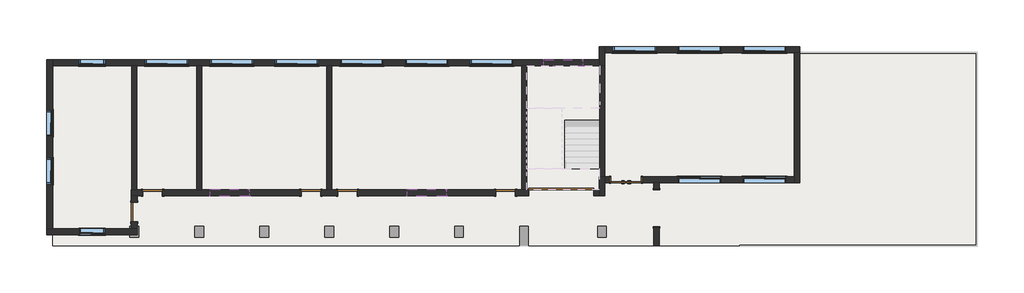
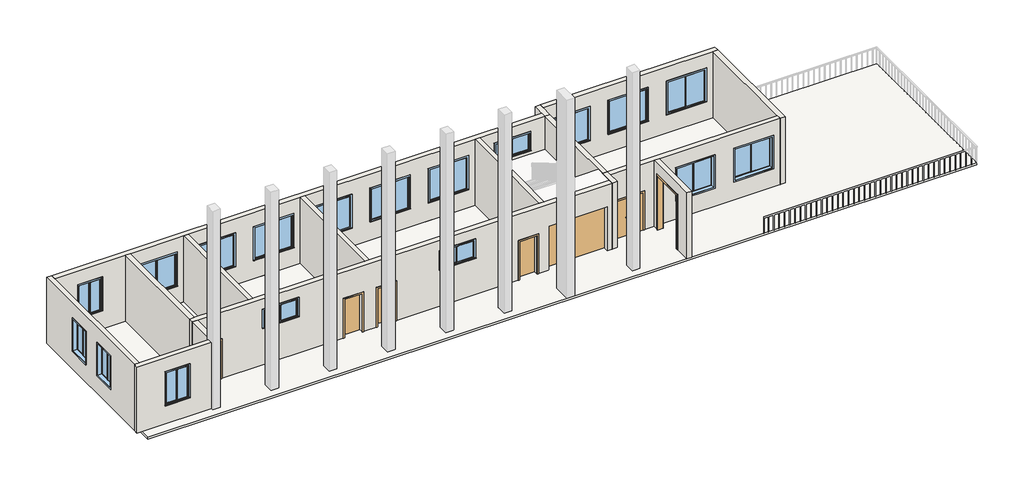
# One storey, part 1 of 3: 18 windows, 16 walls, 8 doors, 1 slab.
"""IFC4 building model written with IfcOpenShell, lengths in millimetres."""

from ifc_helpers import new_model, si_unit, frame, origin, origin_with_axes, place, context, project, spatial, polyline, outline, extrude, faceted_brep, transform, mapped, element, save
from components import door_1800_x_3000mm_c185189f, m1_f3cb3123, m1_ab81c9c2, m2_9ba113ef, m3_c4b16c2e, c1_f694383f, c2_0d9a7da2, c3_ebe1f937

model = new_model("IFC4")

# Units and contexts
model_context = context("Model", 3, world=origin())
ifc_project = project(units=[si_unit("LENGTHUNIT", "METRE", prefix="MILLI")], contexts=[model_context])

# Site, building, storey
site = spatial("IfcSite", under=ifc_project)
building = spatial("IfcBuilding", under=site)
storey = spatial("IfcBuildingStorey", under=building, Name="标高 1", Elevation=0.0)

# Doors
placement = place(None, origin())
door_1800_x_3000mm_shape = door_1800_x_3000mm_c185189f(model_context)
element("IfcDoor", 1, ObjectType="门洞 : 1800 x 3000mm", at=placement, inside=storey, context=model_context, shape_type="MappedRepresentation", body=[
    mapped(door_1800_x_3000mm_shape, transform((19529.6165825, -5070.9601487, 0.0), x_axis=(0.0, -1.0, 0.0), y_axis=(1.0, 0.0, 0.0), z_axis=(0.0, 0.0, 1.0))),
])
m1_shape = m1_f3cb3123(model_context)
element("IfcDoor", 2, ObjectType="单扇 - 与墙齐 : M1", at=placement, inside=storey, context=model_context, shape_type="MappedRepresentation", body=[
    mapped(m1_shape, transform((-4580.3834175, -5250.9601487, 0.0), x_axis=(0.0, -1.0, 0.0), y_axis=(1.0, 0.0, 0.0), z_axis=(0.0, 0.0, 1.0))),
])
element("IfcDoor", 3, ObjectType="单扇 - 与墙齐 : M1", at=placement, inside=storey, context=model_context, shape_type="MappedRepresentation", body=[
    mapped(m1_shape, transform((-3730.3834175, -4350.9601487, 0.0), x_axis=(-1.0, 0.0, 0.0), y_axis=(0.0, -1.0, 0.0), z_axis=(0.0, 0.0, 1.0))),
])
element("IfcDoor", 4, ObjectType="单扇 - 与墙齐 : M1", at=placement, inside=storey, context=model_context, shape_type="MappedRepresentation", body=[
    mapped(m1_shape, transform((5269.6165825, -4350.9601487, 0.0), x_axis=(-1.0, 0.0, 0.0), y_axis=(0.0, -1.0, 0.0), z_axis=(0.0, 0.0, 1.0))),
])
m1_2_shape = m1_ab81c9c2(model_context)
element("IfcDoor", 5, ObjectType="单扇 - 与墙齐 : M1", at=placement, inside=storey, context=model_context, shape_type="MappedRepresentation", body=[
    mapped(m1_2_shape, transform((3569.6165825, -4350.9601487, 0.0), x_axis=(1.0, 0.0, 0.0), y_axis=(0.0, 1.0, 0.0), z_axis=(0.0, 0.0, 1.0))),
])
element("IfcDoor", 6, ObjectType="单扇 - 与墙齐 : M1", at=placement, inside=storey, context=model_context, shape_type="MappedRepresentation", body=[
    mapped(m1_2_shape, transform((12569.6165825, -4350.9601487, 0.0), x_axis=(1.0, 0.0, 0.0), y_axis=(0.0, 1.0, 0.0), z_axis=(0.0, 0.0, 1.0))),
])
m2_shape = m2_9ba113ef(model_context)
element("IfcDoor", 7, ObjectType="双面嵌板木门 1 : M2", at=placement, inside=storey, context=model_context, shape_type="MappedRepresentation", body=[
    mapped(m2_shape, transform((18129.6165825, -3750.9601487, 0.0), x_axis=(1.0, 0.0, 0.0), y_axis=(0.0, 1.0, 0.0), z_axis=(0.0, 0.0, 1.0))),
])
m3_shape = m3_c4b16c2e(model_context)
element("IfcDoor", 8, ObjectType="滑升门 : M3", at=placement, inside=storey, context=model_context, shape_type="MappedRepresentation", body=[
    mapped(m3_shape, transform((15139.6165825, -4350.9601487, 0.0), x_axis=(-1.0, 0.0, 0.0), y_axis=(0.0, -1.0, 0.0), z_axis=(0.0, 0.0, 1.0))),
])

# Slab
element("IfcSlab", 9, ObjectType="常规 - 100mm", at=placement, inside=storey, context=model_context, shape_type="SweptSolid", body=[
    extrude(outline(polyline([(17149.6165825, 1519.0398513), (17149.6165825, 2119.0398513), (34324.6165825, 2119.0398513), (34324.6165825, -6800.9601487), (-8350.3834175, -6800.9601487), (-8350.3834175, 1519.0398513), (17149.6165825, 1519.0398513)])), frame((0.0, 0.0, -100.0), z_axis=(0.0, 0.0, 1.0), x_axis=(1.0, 0.0, 0.0)), (0.0, 0.0, 1.0), 100.0),
])

# Walls
element("IfcWall", 10, ObjectType="外墙", at=placement, inside=storey, context=model_context, shape_type="Brep", body=[
    faceted_brep([(-4450.3834175, -6020.9601487, 0.0), (-4710.3834175, -6020.9601487, 0.0), (-8350.3834175, -6020.9601487, 0.0), (-8610.3834175, -6020.9601487, 0.0), (-8610.3834175, -6020.9601487, 3600.0), (-8350.3834175, -6020.9601487, 3600.0), (-4710.3834175, -6020.9601487, 3600.0), (-4450.3834175, -6020.9601487, 3600.0), (-7130.3834175, -6020.9601487, 2800.0), (-7130.3834175, -6020.9601487, 1000.0), (-5930.3834175, -6020.9601487, 1000.0), (-5930.3834175, -6020.9601487, 2800.0), (-4450.3834175, -6280.9601487, 0.0), (-4450.3834175, -6280.9601487, 3600.0), (-8610.3834175, -6280.9601487, 3600.0), (-8610.3834175, -6280.9601487, 0.0), (-7130.3834175, -6280.9601487, 2800.0), (-5930.3834175, -6280.9601487, 2800.0), (-5930.3834175, -6280.9601487, 1000.0), (-7130.3834175, -6280.9601487, 1000.0)], [[[0, 1, 2, 3, 4, 5, 6, 7], [8, 9, 10, 11]], [[12, 13, 14, 15], [16, 17, 18, 19]], [[3, 2, 1, 0, 12, 15]], [[7, 6, 5, 4, 14, 13]], [[4, 3, 15, 14]], [[0, 7, 13, 12]], [[9, 8, 16, 19]], [[10, 9, 19, 18]], [[11, 10, 18, 17]], [[8, 11, 17, 16]]]),
])
element("IfcWall", 11, ObjectType="外墙", at=placement, inside=storey, context=model_context, shape_type="Brep", body=[
    faceted_brep([(-8350.3834175, -6020.9601487, 0.0), (-8350.3834175, 1519.0398513, 0.0), (-8350.3834175, 1779.0398513, 0.0), (-8350.3834175, 1779.0398513, 3600.0), (-8350.3834175, 1519.0398513, 3600.0), (-8350.3834175, -6020.9601487, 3600.0), (-8350.3834175, -1750.9601487, 2800.0), (-8350.3834175, -550.9601487, 2800.0), (-8350.3834175, -550.9601487, 1000.0), (-8350.3834175, -1750.9601487, 1000.0), (-8350.3834175, -3950.9601487, 2800.0), (-8350.3834175, -2750.9601487, 2800.0), (-8350.3834175, -2750.9601487, 1000.0), (-8350.3834175, -3950.9601487, 1000.0), (-8610.3834175, -6020.9601487, 0.0), (-8610.3834175, -6020.9601487, 3600.0), (-8610.3834175, 1779.0398513, 3600.0), (-8610.3834175, 1779.0398513, 0.0), (-8610.3834175, -1750.9601487, 2800.0), (-8610.3834175, -1750.9601487, 1000.0), (-8610.3834175, -550.9601487, 1000.0), (-8610.3834175, -550.9601487, 2800.0), (-8610.3834175, -3950.9601487, 2800.0), (-8610.3834175, -3950.9601487, 1000.0), (-8610.3834175, -2750.9601487, 1000.0), (-8610.3834175, -2750.9601487, 2800.0)], [[[0, 1, 2, 3, 4, 5], [6, 7, 8, 9], [10, 11, 12, 13]], [[14, 15, 16, 17], [18, 19, 20, 21], [22, 23, 24, 25]], [[2, 1, 0, 14, 17]], [[5, 4, 3, 16, 15]], [[0, 5, 15, 14]], [[3, 2, 17, 16]], [[19, 18, 6, 9]], [[20, 19, 9, 8]], [[21, 20, 8, 7]], [[18, 21, 7, 6]], [[23, 22, 10, 13]], [[24, 23, 13, 12]], [[25, 24, 12, 11]], [[22, 25, 11, 10]]]),
])
element("IfcWall", 12, ObjectType="外墙", at=placement, inside=storey, context=model_context, shape_type="Brep", body=[
    faceted_brep([(-8350.3834175, 1519.0398513, 0.0), (-4700.3834175, 1519.0398513, 0.0), (-4460.3834175, 1519.0398513, 0.0), (-1700.3834175, 1519.0398513, 0.0), (-1460.3834175, 1519.0398513, 0.0), (4299.6165825, 1519.0398513, 0.0), (4539.6165825, 1519.0398513, 0.0), (13299.6165825, 1519.0398513, 0.0), (13539.6165825, 1519.0398513, 0.0), (16889.6165825, 1519.0398513, 0.0), (16889.6165825, 1519.0398513, 3600.0), (13539.6165825, 1519.0398513, 3600.0), (13299.6165825, 1519.0398513, 3600.0), (4539.6165825, 1519.0398513, 3600.0), (4299.6165825, 1519.0398513, 3600.0), (-1460.3834175, 1519.0398513, 3600.0), (-1700.3834175, 1519.0398513, 3600.0), (-4460.3834175, 1519.0398513, 3600.0), (-4700.3834175, 1519.0398513, 3600.0), (-8350.3834175, 1519.0398513, 3600.0), (-7130.3834175, 1519.0398513, 2800.0), (-5930.3834175, 1519.0398513, 2800.0), (-5930.3834175, 1519.0398513, 1000.0), (-7130.3834175, 1519.0398513, 1000.0), (-4080.3834175, 1519.0398513, 2800.0), (-2080.3834175, 1519.0398513, 2800.0), (-2080.3834175, 1519.0398513, 1000.0), (-4080.3834175, 1519.0398513, 1000.0), (-1080.3834175, 1519.0398513, 2800.0), (919.6165825, 1519.0398513, 2800.0), (919.6165825, 1519.0398513, 1000.0), (-1080.3834175, 1519.0398513, 1000.0), (1919.6165825, 1519.0398513, 2800.0), (3919.6165825, 1519.0398513, 2800.0), (3919.6165825, 1519.0398513, 1000.0), (1919.6165825, 1519.0398513, 1000.0), (4919.6165825, 1519.0398513, 2800.0), (6919.6165825, 1519.0398513, 2800.0), (6919.6165825, 1519.0398513, 1000.0), (4919.6165825, 1519.0398513, 1000.0), (7919.6165825, 1519.0398513, 2800.0), (9919.6165825, 1519.0398513, 2800.0), (9919.6165825, 1519.0398513, 1000.0), (7919.6165825, 1519.0398513, 1000.0), (10919.6165825, 1519.0398513, 2800.0), (12919.6165825, 1519.0398513, 2800.0), (12919.6165825, 1519.0398513, 1000.0), (10919.6165825, 1519.0398513, 1000.0), (14319.6165825, 1519.0398513, 3000.0), (16119.6165825, 1519.0398513, 3000.0), (16119.6165825, 1519.0398513, 2000.0), (14319.6165825, 1519.0398513, 2000.0), (-8350.3834175, 1779.0398513, 0.0), (-8350.3834175, 1779.0398513, 3600.0), (16889.6165825, 1779.0398513, 3600.0), (16889.6165825, 1779.0398513, 0.0), (-7130.3834175, 1779.0398513, 2800.0), (-7130.3834175, 1779.0398513, 1000.0), (-5930.3834175, 1779.0398513, 1000.0), (-5930.3834175, 1779.0398513, 2800.0), (-4080.3834175, 1779.0398513, 2800.0), (-4080.3834175, 1779.0398513, 1000.0), (-2080.3834175, 1779.0398513, 1000.0), (-2080.3834175, 1779.0398513, 2800.0), (-1080.3834175, 1779.0398513, 2800.0), (-1080.3834175, 1779.0398513, 1000.0), (919.6165825, 1779.0398513, 1000.0), (919.6165825, 1779.0398513, 2800.0), (1919.6165825, 1779.0398513, 2800.0), (1919.6165825, 1779.0398513, 1000.0), (3919.6165825, 1779.0398513, 1000.0), (3919.6165825, 1779.0398513, 2800.0), (4919.6165825, 1779.0398513, 2800.0), (4919.6165825, 1779.0398513, 1000.0), (6919.6165825, 1779.0398513, 1000.0), (6919.6165825, 1779.0398513, 2800.0), (7919.6165825, 1779.0398513, 2800.0), (7919.6165825, 1779.0398513, 1000.0), (9919.6165825, 1779.0398513, 1000.0), (9919.6165825, 1779.0398513, 2800.0), (10919.6165825, 1779.0398513, 2800.0), (10919.6165825, 1779.0398513, 1000.0), (12919.6165825, 1779.0398513, 1000.0), (12919.6165825, 1779.0398513, 2800.0), (14319.6165825, 1779.0398513, 3000.0), (14319.6165825, 1779.0398513, 2000.0), (16119.6165825, 1779.0398513, 2000.0), (16119.6165825, 1779.0398513, 3000.0)], [[[0, 1, 2, 3, 4, 5, 6, 7, 8, 9, 10, 11, 12, 13, 14, 15, 16, 17, 18, 19], [20, 21, 22, 23], [24, 25, 26, 27], [28, 29, 30, 31], [32, 33, 34, 35], [36, 37, 38, 39], [40, 41, 42, 43], [44, 45, 46, 47], [48, 49, 50, 51]], [[52, 53, 54, 55], [56, 57, 58, 59], [60, 61, 62, 63], [64, 65, 66, 67], [68, 69, 70, 71], [72, 73, 74, 75], [76, 77, 78, 79], [80, 81, 82, 83], [84, 85, 86, 87]], [[9, 8, 7, 6, 5, 4, 3, 2, 1, 0, 52, 55]], [[19, 18, 17, 16, 15, 14, 13, 12, 11, 10, 54, 53]], [[0, 19, 53, 52]], [[57, 56, 20, 23]], [[58, 57, 23, 22]], [[59, 58, 22, 21]], [[56, 59, 21, 20]], [[61, 60, 24, 27]], [[62, 61, 27, 26]], [[63, 62, 26, 25]], [[60, 63, 25, 24]], [[65, 64, 28, 31]], [[66, 65, 31, 30]], [[67, 66, 30, 29]], [[64, 67, 29, 28]], [[69, 68, 32, 35]], [[70, 69, 35, 34]], [[71, 70, 34, 33]], [[68, 71, 33, 32]], [[73, 72, 36, 39]], [[74, 73, 39, 38]], [[75, 74, 38, 37]], [[72, 75, 37, 36]], [[77, 76, 40, 43]], [[78, 77, 43, 42]], [[79, 78, 42, 41]], [[76, 79, 41, 40]], [[81, 80, 44, 47]], [[82, 81, 47, 46]], [[83, 82, 46, 45]], [[80, 83, 45, 44]], [[85, 84, 48, 51]], [[86, 85, 51, 50]], [[87, 86, 50, 49]], [[84, 87, 49, 48]], [[10, 9, 55, 54]]]),
])
element("IfcWall", 13, ObjectType="外墙", at=placement, inside=storey, context=model_context, shape_type="Brep", body=[
    faceted_brep([(17149.6165825, 1519.0398513, 0.0), (17149.6165825, 2119.0398513, 0.0), (17149.6165825, 2379.0398513, 0.0), (17149.6165825, 2379.0398513, 3600.0), (17149.6165825, 2119.0398513, 3600.0), (17149.6165825, 1519.0398513, 3600.0), (16889.6165825, 1519.0398513, 0.0), (16889.6165825, 1519.0398513, 3600.0), (16889.6165825, 1779.0398513, 3600.0), (16889.6165825, 2379.0398513, 3600.0), (16889.6165825, 2379.0398513, 0.0), (16889.6165825, 1779.0398513, 0.0), (17139.6165825, 1519.0398513, 0.0), (16899.6165825, 1519.0398513, 0.0), (16899.6165825, 1519.0398513, 3600.0), (17139.6165825, 1519.0398513, 3600.0)], [[[0, 1, 2, 3, 4, 5]], [[6, 7, 8, 9, 10, 11]], [[2, 1, 0, 12, 13, 6, 11, 10]], [[5, 4, 3, 9, 8, 7, 14, 15]], [[3, 2, 10, 9]], [[0, 5, 15, 14, 7, 6, 13, 12]]]),
])
element("IfcWall", 14, ObjectType="外墙", at=placement, inside=storey, context=model_context, shape_type="Brep", body=[
    faceted_brep([(17149.6165825, 2119.0398513, 0.0), (25889.6165825, 2119.0398513, 0.0), (26149.6165825, 2119.0398513, 0.0), (26149.6165825, 2119.0398513, 3600.0), (25889.6165825, 2119.0398513, 3600.0), (17149.6165825, 2119.0398513, 3600.0), (17519.6165825, 2119.0398513, 2800.0), (19519.6165825, 2119.0398513, 2800.0), (19519.6165825, 2119.0398513, 1000.0), (17519.6165825, 2119.0398513, 1000.0), (20519.6165825, 2119.0398513, 2800.0), (22519.6165825, 2119.0398513, 2800.0), (22519.6165825, 2119.0398513, 1000.0), (20519.6165825, 2119.0398513, 1000.0), (23519.6165825, 2119.0398513, 2800.0), (25519.6165825, 2119.0398513, 2800.0), (25519.6165825, 2119.0398513, 1000.0), (23519.6165825, 2119.0398513, 1000.0), (17149.6165825, 2379.0398513, 0.0), (17149.6165825, 2379.0398513, 3600.0), (26149.6165825, 2379.0398513, 3600.0), (26149.6165825, 2379.0398513, 0.0), (17519.6165825, 2379.0398513, 2800.0), (17519.6165825, 2379.0398513, 1000.0), (19519.6165825, 2379.0398513, 1000.0), (19519.6165825, 2379.0398513, 2800.0), (20519.6165825, 2379.0398513, 2800.0), (20519.6165825, 2379.0398513, 1000.0), (22519.6165825, 2379.0398513, 1000.0), (22519.6165825, 2379.0398513, 2800.0), (23519.6165825, 2379.0398513, 2800.0), (23519.6165825, 2379.0398513, 1000.0), (25519.6165825, 2379.0398513, 1000.0), (25519.6165825, 2379.0398513, 2800.0)], [[[0, 1, 2, 3, 4, 5], [6, 7, 8, 9], [10, 11, 12, 13], [14, 15, 16, 17]], [[18, 19, 20, 21], [22, 23, 24, 25], [26, 27, 28, 29], [30, 31, 32, 33]], [[2, 1, 0, 18, 21]], [[5, 4, 3, 20, 19]], [[0, 5, 19, 18]], [[3, 2, 21, 20]], [[23, 22, 6, 9]], [[24, 23, 9, 8]], [[25, 24, 8, 7]], [[22, 25, 7, 6]], [[27, 26, 10, 13]], [[28, 27, 13, 12]], [[29, 28, 12, 11]], [[26, 29, 11, 10]], [[31, 30, 14, 17]], [[32, 31, 17, 16]], [[33, 32, 16, 15]], [[30, 33, 15, 14]]]),
])
element("IfcWall", 15, ObjectType="外墙", at=placement, inside=storey, context=model_context, shape_type="Brep", body=[
    faceted_brep([(25889.6165825, 2119.0398513, 0.0), (25889.6165825, -3620.9601487, 0.0), (25889.6165825, -3880.9601487, 0.0), (25889.6165825, -3880.9601487, 3600.0), (25889.6165825, -3620.9601487, 3600.0), (25889.6165825, 2119.0398513, 3600.0), (26149.6165825, 2119.0398513, 0.0), (26149.6165825, 2119.0398513, 3600.0), (26149.6165825, -3880.9601487, 3600.0), (26149.6165825, -3880.9601487, 0.0)], [[[0, 1, 2, 3, 4, 5]], [[6, 7, 8, 9]], [[2, 1, 0, 6, 9]], [[5, 4, 3, 8, 7]], [[0, 5, 7, 6]], [[3, 2, 9, 8]]]),
])
element("IfcWall", 16, ObjectType="外墙", at=placement, inside=storey, context=model_context, shape_type="Brep", body=[
    faceted_brep([(17149.6165825, -3620.9601487, 3600.0), (25889.6165825, -3620.9601487, 3600.0), (25889.6165825, -3620.9601487, 0.0), (18879.6165825, -3620.9601487, 0.0), (18879.6165825, -3620.9601487, 2100.0), (17379.6165825, -3620.9601487, 2100.0), (17379.6165825, -3620.9601487, 0.0), (17149.6165825, -3620.9601487, 0.0), (22519.6165825, -3620.9601487, 2800.0), (20519.6165825, -3620.9601487, 2800.0), (20519.6165825, -3620.9601487, 1000.0), (22519.6165825, -3620.9601487, 1000.0), (25519.6165825, -3620.9601487, 2800.0), (23519.6165825, -3620.9601487, 2800.0), (23519.6165825, -3620.9601487, 1000.0), (25519.6165825, -3620.9601487, 1000.0), (25889.6165825, -3880.9601487, 3600.0), (19659.6165825, -3880.9601487, 3600.0), (19399.6165825, -3880.9601487, 3600.0), (17149.6165825, -3880.9601487, 3600.0), (17149.6165825, -3880.9601487, 0.0), (17379.6165825, -3880.9601487, 0.0), (17379.6165825, -3880.9601487, 2100.0), (18879.6165825, -3880.9601487, 2100.0), (18879.6165825, -3880.9601487, 0.0), (19399.6165825, -3880.9601487, 0.0), (19659.6165825, -3880.9601487, 0.0), (25889.6165825, -3880.9601487, 0.0), (22519.6165825, -3880.9601487, 2800.0), (22519.6165825, -3880.9601487, 1000.0), (20519.6165825, -3880.9601487, 1000.0), (20519.6165825, -3880.9601487, 2800.0), (25519.6165825, -3880.9601487, 2800.0), (25519.6165825, -3880.9601487, 1000.0), (23519.6165825, -3880.9601487, 1000.0), (23519.6165825, -3880.9601487, 2800.0)], [[[0, 1, 2, 3, 4, 5, 6, 7], [8, 9, 10, 11], [12, 13, 14, 15]], [[16, 17, 18, 19, 20, 21, 22, 23, 24, 25, 26, 27], [28, 29, 30, 31], [32, 33, 34, 35]], [[2, 27, 26, 25, 24, 3]], [[20, 7, 6, 21]], [[1, 0, 19, 18, 17, 16]], [[2, 1, 16, 27]], [[0, 7, 20, 19]], [[29, 28, 8, 11]], [[30, 29, 11, 10]], [[31, 30, 10, 9]], [[28, 31, 9, 8]], [[33, 32, 12, 15]], [[34, 33, 15, 14]], [[35, 34, 14, 13]], [[32, 35, 13, 12]], [[23, 4, 3, 24]], [[4, 23, 22, 5]], [[5, 22, 21, 6]]]),
])
element("IfcWall", 17, ObjectType="外墙", at=placement, inside=storey, context=model_context, shape_type="Brep", body=[
    faceted_brep([(16889.6165825, -3620.9601487, 0.0), (16889.6165825, -4220.9601487, 0.0), (16889.6165825, -4480.9601487, 0.0), (16889.6165825, -4480.9601487, 3600.0), (16889.6165825, -4220.9601487, 3600.0), (16889.6165825, -3620.9601487, 3600.0), (17149.6165825, -3620.9601487, 0.0), (17149.6165825, -3620.9601487, 3600.0), (17149.6165825, -3880.9601487, 3600.0), (17149.6165825, -4480.9601487, 3600.0), (17149.6165825, -4480.9601487, 0.0), (17149.6165825, -3880.9601487, 0.0), (16899.6165825, -3620.9601487, 0.0), (17139.6165825, -3620.9601487, 0.0), (17139.6165825, -3620.9601487, 3600.0), (16899.6165825, -3620.9601487, 3600.0)], [[[0, 1, 2, 3, 4, 5]], [[6, 7, 8, 9, 10, 11]], [[2, 1, 0, 12, 13, 6, 11, 10]], [[5, 4, 3, 9, 8, 7, 14, 15]], [[0, 5, 15, 14, 7, 6, 13, 12]], [[3, 2, 10, 9]]]),
])
element("IfcWall", 18, ObjectType="外墙", at=placement, inside=storey, context=model_context, shape_type="Brep", body=[
    faceted_brep([(13639.6165825, -4220.9601487, 0.0), (13539.6165825, -4220.9601487, 0.0), (13299.6165825, -4220.9601487, 0.0), (13019.6165825, -4220.9601487, 0.0), (13019.6165825, -4220.9601487, 2100.0), (12119.6165825, -4220.9601487, 2100.0), (12119.6165825, -4220.9601487, 0.0), (5719.6165825, -4220.9601487, 0.0), (5719.6165825, -4220.9601487, 2100.0), (4819.6165825, -4220.9601487, 2100.0), (4819.6165825, -4220.9601487, 0.0), (4539.6165825, -4220.9601487, 0.0), (4299.6165825, -4220.9601487, 0.0), (4019.6165825, -4220.9601487, 0.0), (4019.6165825, -4220.9601487, 2100.0), (3119.6165825, -4220.9601487, 2100.0), (3119.6165825, -4220.9601487, 0.0), (-1460.3834175, -4220.9601487, 0.0), (-1700.3834175, -4220.9601487, 0.0), (-3280.3834175, -4220.9601487, 0.0), (-3280.3834175, -4220.9601487, 2100.0), (-4180.3834175, -4220.9601487, 2100.0), (-4180.3834175, -4220.9601487, 0.0), (-4460.3834175, -4220.9601487, 0.0), (-4700.3834175, -4220.9601487, 0.0), (-4710.3834175, -4220.9601487, 0.0), (-4710.3834175, -4220.9601487, 3600.0), (-4700.3834175, -4220.9601487, 3600.0), (-4460.3834175, -4220.9601487, 3600.0), (-1700.3834175, -4220.9601487, 3600.0), (-1460.3834175, -4220.9601487, 3600.0), (4299.6165825, -4220.9601487, 3600.0), (4539.6165825, -4220.9601487, 3600.0), (13299.6165825, -4220.9601487, 3600.0), (13539.6165825, -4220.9601487, 3600.0), (16889.6165825, -4220.9601487, 3600.0), (16889.6165825, -4220.9601487, 0.0), (16639.6165825, -4220.9601487, 0.0), (16639.6165825, -4220.9601487, 2400.0), (13639.6165825, -4220.9601487, 2400.0), (8019.6165825, -4220.9601487, 3000.0), (8019.6165825, -4220.9601487, 2000.0), (9819.6165825, -4220.9601487, 2000.0), (9819.6165825, -4220.9601487, 3000.0), (-1080.3834175, -4220.9601487, 3000.0), (-1080.3834175, -4220.9601487, 2000.0), (719.6165825, -4220.9601487, 2000.0), (719.6165825, -4220.9601487, 3000.0), (13019.6165825, -4480.9601487, 2100.0), (13019.6165825, -4480.9601487, 0.0), (13639.6165825, -4480.9601487, 0.0), (13639.6165825, -4480.9601487, 2400.0), (16639.6165825, -4480.9601487, 2400.0), (16639.6165825, -4480.9601487, 0.0), (16889.6165825, -4480.9601487, 0.0), (16889.6165825, -4480.9601487, 3600.0), (-4450.3834175, -4480.9601487, 3600.0), (-4710.3834175, -4480.9601487, 3600.0), (-4710.3834175, -4480.9601487, 0.0), (-4450.3834175, -4480.9601487, 0.0), (-4180.3834175, -4480.9601487, 0.0), (-4180.3834175, -4480.9601487, 2100.0), (-3280.3834175, -4480.9601487, 2100.0), (-3280.3834175, -4480.9601487, 0.0), (3119.6165825, -4480.9601487, 0.0), (3119.6165825, -4480.9601487, 2100.0), (4019.6165825, -4480.9601487, 2100.0), (4019.6165825, -4480.9601487, 0.0), (4819.6165825, -4480.9601487, 0.0), (4819.6165825, -4480.9601487, 2100.0), (5719.6165825, -4480.9601487, 2100.0), (5719.6165825, -4480.9601487, 0.0), (12119.6165825, -4480.9601487, 0.0), (12119.6165825, -4480.9601487, 2100.0), (8019.6165825, -4480.9601487, 3000.0), (9819.6165825, -4480.9601487, 3000.0), (9819.6165825, -4480.9601487, 2000.0), (8019.6165825, -4480.9601487, 2000.0), (-1080.3834175, -4480.9601487, 3000.0), (719.6165825, -4480.9601487, 3000.0), (719.6165825, -4480.9601487, 2000.0), (-1080.3834175, -4480.9601487, 2000.0)], [[[0, 1, 2, 3, 4, 5, 6, 7, 8, 9, 10, 11, 12, 13, 14, 15, 16, 17, 18, 19, 20, 21, 22, 23, 24, 25, 26, 27, 28, 29, 30, 31, 32, 33, 34, 35, 36, 37, 38, 39], [40, 41, 42, 43], [44, 45, 46, 47]], [[48, 49, 50, 51, 52, 53, 54, 55, 56, 57, 58, 59, 60, 61, 62, 63, 64, 65, 66, 67, 68, 69, 70, 71, 72, 73], [74, 75, 76, 77], [78, 79, 80, 81]], [[36, 54, 53, 37]], [[25, 24, 23, 22, 60, 59, 58]], [[64, 63, 19, 18, 17, 16]], [[68, 67, 13, 12, 11, 10]], [[72, 71, 7, 6]], [[50, 49, 3, 2, 1, 0]], [[35, 34, 33, 32, 31, 30, 29, 28, 27, 26, 57, 56, 55]], [[36, 35, 55, 54]], [[26, 25, 58, 57]], [[41, 40, 74, 77]], [[42, 41, 77, 76]], [[43, 42, 76, 75]], [[40, 43, 75, 74]], [[45, 44, 78, 81]], [[46, 45, 81, 80]], [[47, 46, 80, 79]], [[44, 47, 79, 78]], [[39, 51, 50, 0]], [[51, 39, 38, 52]], [[52, 38, 37, 53]], [[61, 60, 22, 21]], [[62, 61, 21, 20]], [[63, 62, 20, 19]], [[69, 68, 10, 9]], [[70, 69, 9, 8]], [[71, 70, 8, 7]], [[14, 13, 67, 66]], [[15, 14, 66, 65]], [[16, 15, 65, 64]], [[4, 3, 49, 48]], [[5, 4, 48, 73]], [[6, 5, 73, 72]]]),
])
element("IfcWall", 19, ObjectType="外墙", at=placement, inside=storey, context=model_context, shape_type="SweptSolid", body=[
    extrude(outline(polyline([(-5700.9601487, 2100.0), (-5700.9601487, 0.0), (-6020.9601487, 0.0), (-6020.9601487, 3600.0), (-4480.9601487, 3600.0), (-4480.9601487, 0.0), (-4800.9601487, 0.0), (-4800.9601487, 2100.0), (-5700.9601487, 2100.0)])), frame((-4710.3834175, 0.0, 0.0), z_axis=(1.0, 0.0, 0.0), x_axis=(0.0, 1.0, 0.0)), (0.0, 0.0, 1.0), 260.0),
])
element("IfcWall", 20, ObjectType="外墙", at=placement, inside=storey, context=model_context, shape_type="SweptSolid", body=[
    extrude(outline(polyline([(-6800.9601487, 0.0), (-6800.9601487, 3600.0), (-3880.9601487, 3600.0), (-3880.9601487, 0.0), (-4170.9601487, 0.0), (-4170.9601487, 3000.0), (-5970.9601487, 3000.0), (-5970.9601487, 0.0), (-6800.9601487, 0.0)])), frame((19399.6165825, 0.0, 0.0), z_axis=(1.0, 0.0, 0.0), x_axis=(0.0, 1.0, 0.0)), (0.0, 0.0, 1.0), 260.0),
])
element("IfcWall", 21, ObjectType="内墙", at=placement, inside=storey, context=model_context, shape_type="SweptSolid", body=[
    extrude(outline(polyline([(-4700.3834175, -4220.9601487), (-4700.3834175, 1519.0398513), (-4460.3834175, 1519.0398513), (-4460.3834175, -4220.9601487), (-4700.3834175, -4220.9601487)])), origin_with_axes(), (0.0, 0.0, 1.0), 3600.0),
])
element("IfcWall", 22, ObjectType="内墙", at=placement, inside=storey, context=model_context, shape_type="SweptSolid", body=[
    extrude(outline(polyline([(-1700.3834175, -4220.9601487), (-1700.3834175, 1519.0398513), (-1460.3834175, 1519.0398513), (-1460.3834175, -4220.9601487), (-1700.3834175, -4220.9601487)])), origin_with_axes(), (0.0, 0.0, 1.0), 3600.0),
])
element("IfcWall", 23, ObjectType="内墙", at=placement, inside=storey, context=model_context, shape_type="SweptSolid", body=[
    extrude(outline(polyline([(4299.6165825, -4220.9601487), (4299.6165825, 1519.0398513), (4539.6165825, 1519.0398513), (4539.6165825, -4220.9601487), (4299.6165825, -4220.9601487)])), origin_with_axes(), (0.0, 0.0, 1.0), 3600.0),
])
element("IfcWall", 24, ObjectType="内墙", at=placement, inside=storey, context=model_context, shape_type="SweptSolid", body=[
    extrude(outline(polyline([(13299.6165825, -4220.9601487), (13299.6165825, 1519.0398513), (13539.6165825, 1519.0398513), (13539.6165825, -4220.9601487), (13299.6165825, -4220.9601487)])), origin_with_axes(), (0.0, 0.0, 1.0), 3600.0),
])
element("IfcWall", 25, ObjectType="内墙", at=placement, inside=storey, context=model_context, shape_type="SweptSolid", body=[
    extrude(outline(polyline([(16899.6165825, -3620.9601487), (16899.6165825, 1519.0398513), (17139.6165825, 1519.0398513), (17139.6165825, -3620.9601487), (16899.6165825, -3620.9601487)])), origin_with_axes(), (0.0, 0.0, 1.0), 3600.0),
])

# Windows
c1_shape = c1_f694383f(model_context)
element("IfcWindow", 26, ObjectType="推拉窗5 - 带贴面 : C1", at=placement, inside=storey, context=model_context, shape_type="MappedRepresentation", body=[
    mapped(c1_shape, transform((-6520.8584175, -6217.8335862, 95.0), x_axis=(-1.0, 0.0, 0.0), y_axis=(0.0, -1.0, 0.0), z_axis=(0.0, 0.0, 1.0))),
])
element("IfcWindow", 27, ObjectType="推拉窗5 - 带贴面 : C1", at=placement, inside=storey, context=model_context, shape_type="MappedRepresentation", body=[
    mapped(c1_shape, transform((-8413.50998, -1141.4351487, 95.0), x_axis=(0.0, -1.0, 0.0), y_axis=(1.0, 0.0, 0.0), z_axis=(0.0, 0.0, 1.0))),
])
element("IfcWindow", 28, ObjectType="推拉窗5 - 带贴面 : C1", at=placement, inside=storey, context=model_context, shape_type="MappedRepresentation", body=[
    mapped(c1_shape, transform((-6520.8584175, 1582.1664138, 95.0), x_axis=(-1.0, 0.0, 0.0), y_axis=(0.0, -1.0, 0.0), z_axis=(0.0, 0.0, 1.0))),
])
element("IfcWindow", 29, ObjectType="推拉窗5 - 带贴面 : C1", at=placement, inside=storey, context=model_context, shape_type="MappedRepresentation", body=[
    mapped(c1_shape, transform((-8413.50998, -3341.4351487, 95.0), x_axis=(0.0, -1.0, 0.0), y_axis=(1.0, 0.0, 0.0), z_axis=(0.0, 0.0, 1.0))),
])
c2_shape = c2_0d9a7da2(model_context)
element("IfcWindow", 30, ObjectType="推拉窗5 - 带贴面 : C2", at=placement, inside=storey, context=model_context, shape_type="MappedRepresentation", body=[
    mapped(c2_shape, transform((-3070.8584175, 1582.1664138, 95.0), x_axis=(-1.0, 0.0, 0.0), y_axis=(0.0, -1.0, 0.0), z_axis=(0.0, 0.0, 1.0))),
])
element("IfcWindow", 31, ObjectType="推拉窗5 - 带贴面 : C2", at=placement, inside=storey, context=model_context, shape_type="MappedRepresentation", body=[
    mapped(c2_shape, transform((-70.8584175, 1582.1664138, 95.0), x_axis=(-1.0, 0.0, 0.0), y_axis=(0.0, -1.0, 0.0), z_axis=(0.0, 0.0, 1.0))),
])
element("IfcWindow", 32, ObjectType="推拉窗5 - 带贴面 : C2", at=placement, inside=storey, context=model_context, shape_type="MappedRepresentation", body=[
    mapped(c2_shape, transform((2929.1415825, 1582.1664138, 95.0), x_axis=(-1.0, 0.0, 0.0), y_axis=(0.0, -1.0, 0.0), z_axis=(0.0, 0.0, 1.0))),
])
element("IfcWindow", 33, ObjectType="推拉窗5 - 带贴面 : C2", at=placement, inside=storey, context=model_context, shape_type="MappedRepresentation", body=[
    mapped(c2_shape, transform((5929.1415825, 1582.1664138, 95.0), x_axis=(-1.0, 0.0, 0.0), y_axis=(0.0, -1.0, 0.0), z_axis=(0.0, 0.0, 1.0))),
])
element("IfcWindow", 34, ObjectType="推拉窗5 - 带贴面 : C2", at=placement, inside=storey, context=model_context, shape_type="MappedRepresentation", body=[
    mapped(c2_shape, transform((8929.1415825, 1582.1664138, 95.0), x_axis=(-1.0, 0.0, 0.0), y_axis=(0.0, -1.0, 0.0), z_axis=(0.0, 0.0, 1.0))),
])
element("IfcWindow", 35, ObjectType="推拉窗5 - 带贴面 : C2", at=placement, inside=storey, context=model_context, shape_type="MappedRepresentation", body=[
    mapped(c2_shape, transform((11929.1415825, 1582.1664138, 95.0), x_axis=(-1.0, 0.0, 0.0), y_axis=(0.0, -1.0, 0.0), z_axis=(0.0, 0.0, 1.0))),
])
element("IfcWindow", 36, ObjectType="推拉窗5 - 带贴面 : C2", at=placement, inside=storey, context=model_context, shape_type="MappedRepresentation", body=[
    mapped(c2_shape, transform((18529.1415825, 2182.1664138, 95.0), x_axis=(-1.0, 0.0, 0.0), y_axis=(0.0, -1.0, 0.0), z_axis=(0.0, 0.0, 1.0))),
])
element("IfcWindow", 37, ObjectType="推拉窗5 - 带贴面 : C2", at=placement, inside=storey, context=model_context, shape_type="MappedRepresentation", body=[
    mapped(c2_shape, transform((21529.1415825, 2182.1664138, 95.0), x_axis=(-1.0, 0.0, 0.0), y_axis=(0.0, -1.0, 0.0), z_axis=(0.0, 0.0, 1.0))),
])
element("IfcWindow", 38, ObjectType="推拉窗5 - 带贴面 : C2", at=placement, inside=storey, context=model_context, shape_type="MappedRepresentation", body=[
    mapped(c2_shape, transform((24529.1415825, 2182.1664138, 95.0), x_axis=(-1.0, 0.0, 0.0), y_axis=(0.0, -1.0, 0.0), z_axis=(0.0, 0.0, 1.0))),
])
element("IfcWindow", 39, ObjectType="推拉窗5 - 带贴面 : C2", at=placement, inside=storey, context=model_context, shape_type="MappedRepresentation", body=[
    mapped(c2_shape, transform((21510.0915825, -3684.0867112, 95.0), x_axis=(1.0, 0.0, 0.0), y_axis=(0.0, 1.0, 0.0), z_axis=(0.0, 0.0, 1.0))),
])
element("IfcWindow", 40, ObjectType="推拉窗5 - 带贴面 : C2", at=placement, inside=storey, context=model_context, shape_type="MappedRepresentation", body=[
    mapped(c2_shape, transform((24510.0915825, -3684.0867112, 95.0), x_axis=(1.0, 0.0, 0.0), y_axis=(0.0, 1.0, 0.0), z_axis=(0.0, 0.0, 1.0))),
])
c3_shape = c3_ebe1f937(model_context)
element("IfcWindow", 41, ObjectType="推拉窗5 - 带贴面 : C3", at=placement, inside=storey, context=model_context, shape_type="MappedRepresentation", body=[
    mapped(c3_shape, transform((15229.1415825, 1582.1664138, 1095.0), x_axis=(-1.0, 0.0, 0.0), y_axis=(0.0, -1.0, 0.0), z_axis=(0.0, 0.0, 1.0))),
])
element("IfcWindow", 42, ObjectType="推拉窗5 - 带贴面 : C3", at=placement, inside=storey, context=model_context, shape_type="MappedRepresentation", body=[
    mapped(c3_shape, transform((8929.1415825, -4417.8335862, 1095.0), x_axis=(-1.0, 0.0, 0.0), y_axis=(0.0, -1.0, 0.0), z_axis=(0.0, 0.0, 1.0))),
])
element("IfcWindow", 43, ObjectType="推拉窗5 - 带贴面 : C3", at=placement, inside=storey, context=model_context, shape_type="MappedRepresentation", body=[
    mapped(c3_shape, transform((-170.8584175, -4417.8335862, 1095.0), x_axis=(-1.0, 0.0, 0.0), y_axis=(0.0, -1.0, 0.0), z_axis=(0.0, 0.0, 1.0))),
])

save(model, "model.ifc")
